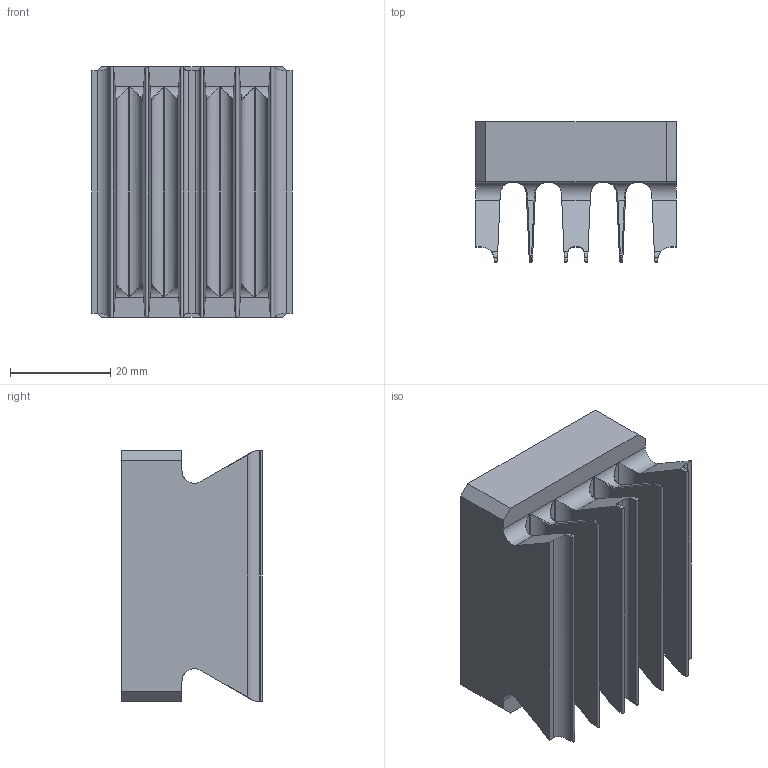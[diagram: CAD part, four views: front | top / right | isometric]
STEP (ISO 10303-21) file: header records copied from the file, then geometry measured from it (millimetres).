
FILE_DESCRIPTION (( 'STEP AP203' ), '1' );
FILE_NAME ('FB-011-02CUA.STEP', '2025-03-24T03:03:16', ( 'Windows 蚚誧' ), ( 'Organization' ), 'SwSTEP 2.0', 'SolidWorks 2020', '' );
FILE_SCHEMA (( 'CONFIG_CONTROL_DESIGN' ));
Length unit declared in the file: millimetre
Products named in the file (1): FB-011-02CUA
Bounding box: 40 x 28 x 50 mm (x, y, z)
Volume: 34010.2 mm3; surface area: 13845.8 mm2
Topology: 1 solids, 1 shells, 159 faces, 414 edges, 244 vertices
Faces by surface type: plane 63, cylinder 56, bspline 24, cone 16
Entity records: 6693 total; most frequent: CARTESIAN_POINT 3218, ORIENTED_EDGE 780, DIRECTION 582, EDGE_CURVE 390, VERTEX_POINT 244, VECTOR 206, LINE 206, AXIS2_PLACEMENT_3D 188
